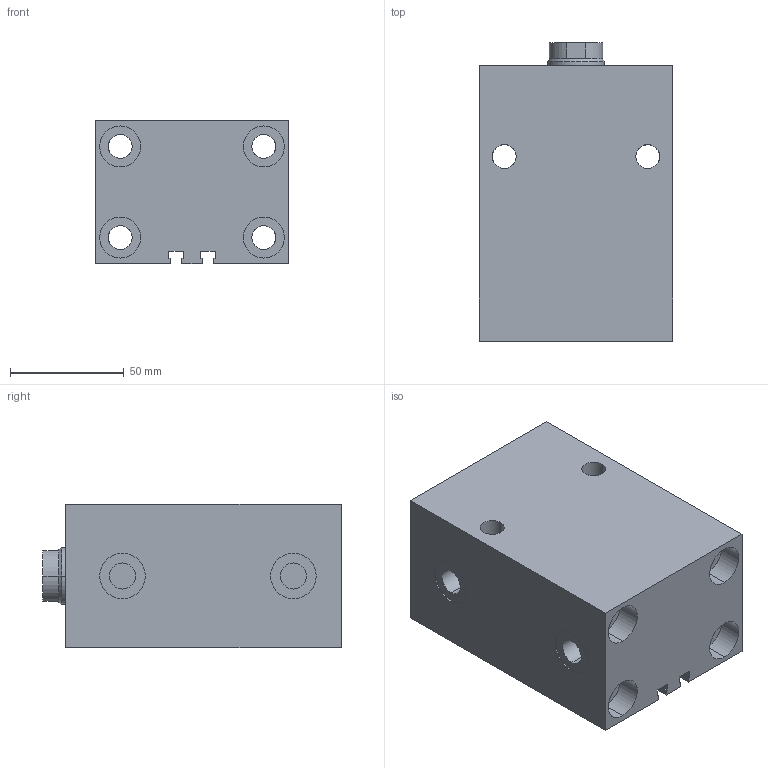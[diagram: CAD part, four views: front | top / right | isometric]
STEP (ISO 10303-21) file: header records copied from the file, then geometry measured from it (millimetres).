
FILE_DESCRIPTION (( 'STEP AP203' ), '1' );
FILE_NAME ('GERMA_Blockzylinder_700-040-050.STEP', '2016-07-23T10:08:29', ( '' ), ( '' ), 'SwSTEP 2.0', 'SolidWorks 2015', '' );
FILE_SCHEMA (( 'CONFIG_CONTROL_DESIGN' ));
Length unit declared in the file: millimetre
Products named in the file (3): GH-700-040_GH-700-040-050; Kolben_MT 70x-040_Kolben_MT DU.40-Hub50-IG; GERMA_Blockzylinder_700-040-050
Assembly tree (2 placements, depth 2):
  GERMA_Blockzylinder_700-040-050
    GH-700-040_GH-700-040-050
    Kolben_MT 70x-040_Kolben_MT DU.40-Hub50-IG
Bounding box: 85 x 131 x 63 mm (x, y, z)
Volume: 533439.4 mm3; surface area: 97337 mm2
Topology: 2 solids, 2 shells, 136 faces, 322 edges, 198 vertices
Faces by surface type: cylinder 75, plane 47, cone 14
Entity records: 4210 total; most frequent: CARTESIAN_POINT 751, DIRECTION 695, ORIENTED_EDGE 632, EDGE_CURVE 316, AXIS2_PLACEMENT_3D 270, VERTEX_POINT 198, EDGE_LOOP 170, VECTOR 155
